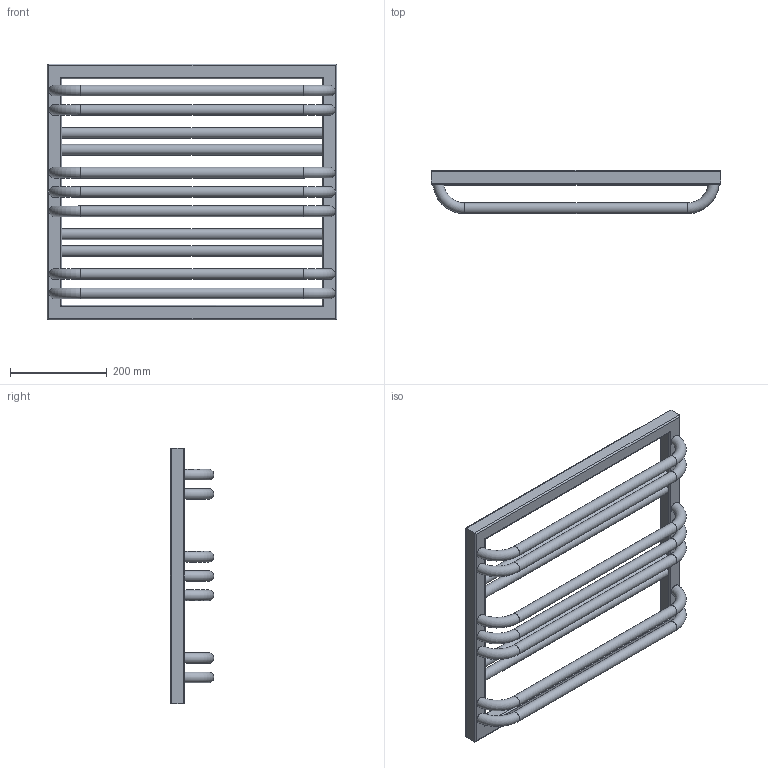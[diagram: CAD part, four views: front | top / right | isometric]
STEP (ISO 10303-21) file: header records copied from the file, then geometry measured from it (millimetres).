
FILE_DESCRIPTION((''),'2;1');
FILE_NAME('Z:\R\G\P\RGPH18 - Grzejnik POC\Work\Inventor\POC 1-6-8 v2.0\Marketing\AutoCad 3D\POC-530-600-1-6-8.stp','2012-07-12T14:39:51',('KurKa'),(''),'Autodesk Inventor 2012','Autodesk Inventor 2012','');
FILE_SCHEMA(('AUTOMOTIVE_DESIGN { 1 0 10303 214 1 1 1 1 }'));
Length unit declared in the file: millimetre
Products named in the file (1): POC-530-600-1-6-8
Bounding box: 600 x 90 x 530 mm (x, y, z)
Volume: 4376854.3 mm3; surface area: 688980.1 mm2
Topology: 1 solids, 1 shells, 60 faces, 146 edges, 91 vertices
Faces by surface type: cylinder 30, torus 17, plane 13
Full cylindrical faces by diameter (mm): 18.631 x3, 22 x11
Entity records: 2420 total; most frequent: CARTESIAN_POINT 1149, DIRECTION 256, ORIENTED_EDGE 202, EDGE_LOOP 118, AXIS2_PLACEMENT_3D 108, EDGE_CURVE 101, VERTEX_POINT 77, FACE_OUTER_BOUND 60
